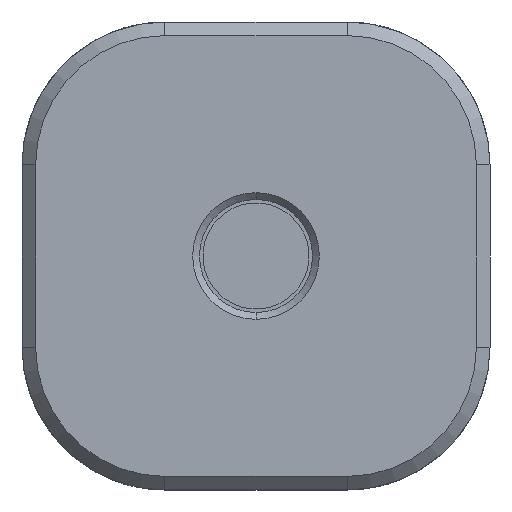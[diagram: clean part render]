
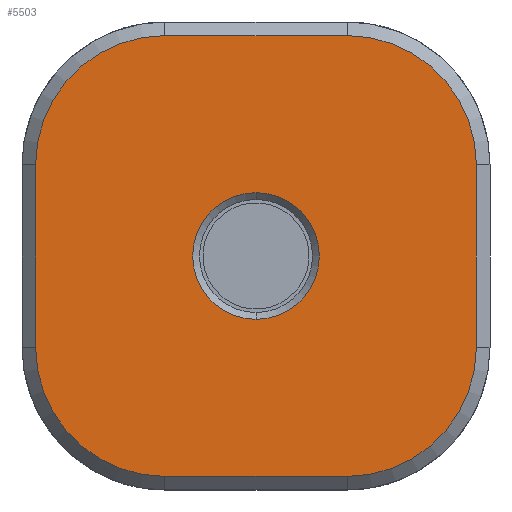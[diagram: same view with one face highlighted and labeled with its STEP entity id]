
A CAD part, front view. The second image highlights one B-rep face of the part: STEP entity #5503.
In plain terms, the highlighted planar face has unit normal (0, -1, 0).
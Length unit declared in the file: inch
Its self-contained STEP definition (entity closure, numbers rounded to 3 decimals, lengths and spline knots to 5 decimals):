
#114 = ORIENTED_EDGE ( 'NONE', *, *, #12721, .T. ) ;
#265 = DIRECTION ( 'NONE',  ( 0., -1., 0. ) ) ;
#301 = CARTESIAN_POINT ( 'NONE',  ( 0.2675, -0.625, -0.6475 ) ) ;
#355 = DIRECTION ( 'NONE',  ( 0., 1., 0. ) ) ;
#370 = CARTESIAN_POINT ( 'NONE',  ( 0.6475, -0.625, -0.2675 ) ) ;
#485 = DIRECTION ( 'NONE',  ( 0., 0., 1. ) ) ;
#896 = DIRECTION ( 'NONE',  ( 0., 0., 1. ) ) ;
#906 = ORIENTED_EDGE ( 'NONE', *, *, #8901, .T. ) ;
#1298 = EDGE_CURVE ( 'NONE', #3335, #11224, #7020, .T. ) ;
#1361 = VECTOR ( 'NONE', #2703, 39.37008 ) ;
#1372 = DIRECTION ( 'NONE',  ( 1., 0., 0. ) ) ;
#1396 = DIRECTION ( 'NONE',  ( 0., 0., 1. ) ) ;
#1475 = VERTEX_POINT ( 'NONE', #14259 ) ;
#1636 = FACE_OUTER_BOUND ( 'NONE', #10106, .T. ) ;
#2278 = AXIS2_PLACEMENT_3D ( 'NONE', #13886, #3599, #1396 ) ;
#2286 = DIRECTION ( 'NONE',  ( 0., -1., 0. ) ) ;
#2375 = CARTESIAN_POINT ( 'NONE',  ( 0.6475, -0.625, -0.2675 ) ) ;
#2600 = CARTESIAN_POINT ( 'NONE',  ( -0.2675, -0.625, 0.6475 ) ) ;
#2703 = DIRECTION ( 'NONE',  ( 0., 0., -1. ) ) ;
#2850 = CARTESIAN_POINT ( 'NONE',  ( 0.2675, -0.625, -0.2675 ) ) ;
#2893 = VERTEX_POINT ( 'NONE', #10060 ) ;
#2996 = VECTOR ( 'NONE', #13948, 39.37008 ) ;
#3137 = AXIS2_PLACEMENT_3D ( 'NONE', #13784, #2286, #8159 ) ;
#3335 = VERTEX_POINT ( 'NONE', #5500 ) ;
#3464 = AXIS2_PLACEMENT_3D ( 'NONE', #2850, #355, #9647 ) ;
#3584 = AXIS2_PLACEMENT_3D ( 'NONE', #5852, #265, #6924 ) ;
#3599 = DIRECTION ( 'NONE',  ( 0., -1., 0. ) ) ;
#3801 = ORIENTED_EDGE ( 'NONE', *, *, #5857, .T. ) ;
#3979 = EDGE_CURVE ( 'NONE', #9915, #7996, #8100, .T. ) ;
#4019 = AXIS2_PLACEMENT_3D ( 'NONE', #4905, #8524, #7310 ) ;
#4300 = AXIS2_PLACEMENT_3D ( 'NONE', #13527, #5429, #896 ) ;
#4905 = CARTESIAN_POINT ( 'NONE',  ( -0.2675, -0.625, -0.2675 ) ) ;
#5036 = PLANE ( 'NONE',  #3464 ) ;
#5218 = EDGE_CURVE ( 'NONE', #12323, #7314, #14286, .T. ) ;
#5429 = DIRECTION ( 'NONE',  ( 0., 1., 0. ) ) ;
#5500 = CARTESIAN_POINT ( 'NONE',  ( -0.6475, -0.625, 0.2675 ) ) ;
#5503 = ADVANCED_FACE ( 'NONE', ( #9505, #1636 ), #5036, .F. ) ;
#5626 = VECTOR ( 'NONE', #1372, 39.37008 ) ;
#5722 = ORIENTED_EDGE ( 'NONE', *, *, #11659, .T. ) ;
#5742 = EDGE_CURVE ( 'NONE', #7996, #1475, #7579, .T. ) ;
#5802 = VERTEX_POINT ( 'NONE', #2600 ) ;
#5852 = CARTESIAN_POINT ( 'NONE',  ( 0.2675, -0.625, -0.2675 ) ) ;
#5857 = EDGE_CURVE ( 'NONE', #1475, #5802, #7875, .T. ) ;
#6449 = CARTESIAN_POINT ( 'NONE',  ( 0.2675, -0.625, 0.6475 ) ) ;
#6717 = CIRCLE ( 'NONE', #3584, 0.38 ) ;
#6921 = CIRCLE ( 'NONE', #4019, 0.38 ) ;
#6924 = DIRECTION ( 'NONE',  ( 0., 0., 1. ) ) ;
#7020 = LINE ( 'NONE', #11647, #1361 ) ;
#7068 = EDGE_CURVE ( 'NONE', #2893, #8214, #10271, .T. ) ;
#7191 = CARTESIAN_POINT ( 'NONE',  ( 0., -0.625, 0.186 ) ) ;
#7310 = DIRECTION ( 'NONE',  ( 0., 0., 1. ) ) ;
#7314 = VERTEX_POINT ( 'NONE', #11956 ) ;
#7579 = CIRCLE ( 'NONE', #2278, 0.38 ) ;
#7875 = LINE ( 'NONE', #6449, #10970 ) ;
#7879 = CARTESIAN_POINT ( 'NONE',  ( 0.6475, -0.625, 0.2675 ) ) ;
#7996 = VERTEX_POINT ( 'NONE', #7879 ) ;
#8072 = AXIS2_PLACEMENT_3D ( 'NONE', #8481, #10847, #485 ) ;
#8100 = LINE ( 'NONE', #2375, #2996 ) ;
#8159 = DIRECTION ( 'NONE',  ( 0., 0., 1. ) ) ;
#8214 = VERTEX_POINT ( 'NONE', #7191 ) ;
#8246 = CARTESIAN_POINT ( 'NONE',  ( -0.2675, -0.625, -0.6475 ) ) ;
#8481 = CARTESIAN_POINT ( 'NONE',  ( 0., -0.625, 0. ) ) ;
#8524 = DIRECTION ( 'NONE',  ( 0., -1., 0. ) ) ;
#8901 = EDGE_CURVE ( 'NONE', #11224, #12323, #6921, .T. ) ;
#9505 = FACE_BOUND ( 'NONE', #9902, .T. ) ;
#9647 = DIRECTION ( 'NONE',  ( 0., 0., 1. ) ) ;
#9902 = EDGE_LOOP ( 'NONE', ( #14811, #5722 ) ) ;
#9915 = VERTEX_POINT ( 'NONE', #370 ) ;
#10060 = CARTESIAN_POINT ( 'NONE',  ( 0., -0.625, -0.186 ) ) ;
#10106 = EDGE_LOOP ( 'NONE', ( #114, #11788, #906, #14073, #13950, #12809, #14827, #3801 ) ) ;
#10271 = CIRCLE ( 'NONE', #8072, 0.186 ) ;
#10317 = CARTESIAN_POINT ( 'NONE',  ( -0.6475, -0.625, -0.2675 ) ) ;
#10847 = DIRECTION ( 'NONE',  ( 0., 1., 0. ) ) ;
#10970 = VECTOR ( 'NONE', #14480, 39.37008 ) ;
#11224 = VERTEX_POINT ( 'NONE', #10317 ) ;
#11647 = CARTESIAN_POINT ( 'NONE',  ( -0.6475, -0.625, -0.2675 ) ) ;
#11659 = EDGE_CURVE ( 'NONE', #8214, #2893, #12986, .T. ) ;
#11788 = ORIENTED_EDGE ( 'NONE', *, *, #1298, .T. ) ;
#11898 = EDGE_CURVE ( 'NONE', #7314, #9915, #6717, .T. ) ;
#11956 = CARTESIAN_POINT ( 'NONE',  ( 0.2675, -0.625, -0.6475 ) ) ;
#12323 = VERTEX_POINT ( 'NONE', #8246 ) ;
#12721 = EDGE_CURVE ( 'NONE', #5802, #3335, #14731, .T. ) ;
#12809 = ORIENTED_EDGE ( 'NONE', *, *, #3979, .T. ) ;
#12986 = CIRCLE ( 'NONE', #4300, 0.186 ) ;
#13527 = CARTESIAN_POINT ( 'NONE',  ( 0., -0.625, 0. ) ) ;
#13784 = CARTESIAN_POINT ( 'NONE',  ( -0.2675, -0.625, 0.2675 ) ) ;
#13886 = CARTESIAN_POINT ( 'NONE',  ( 0.2675, -0.625, 0.2675 ) ) ;
#13948 = DIRECTION ( 'NONE',  ( 0., 0., 1. ) ) ;
#13950 = ORIENTED_EDGE ( 'NONE', *, *, #11898, .T. ) ;
#14073 = ORIENTED_EDGE ( 'NONE', *, *, #5218, .T. ) ;
#14259 = CARTESIAN_POINT ( 'NONE',  ( 0.2675, -0.625, 0.6475 ) ) ;
#14286 = LINE ( 'NONE', #301, #5626 ) ;
#14480 = DIRECTION ( 'NONE',  ( -1., 0., 0. ) ) ;
#14731 = CIRCLE ( 'NONE', #3137, 0.38 ) ;
#14811 = ORIENTED_EDGE ( 'NONE', *, *, #7068, .T. ) ;
#14827 = ORIENTED_EDGE ( 'NONE', *, *, #5742, .T. ) ;
